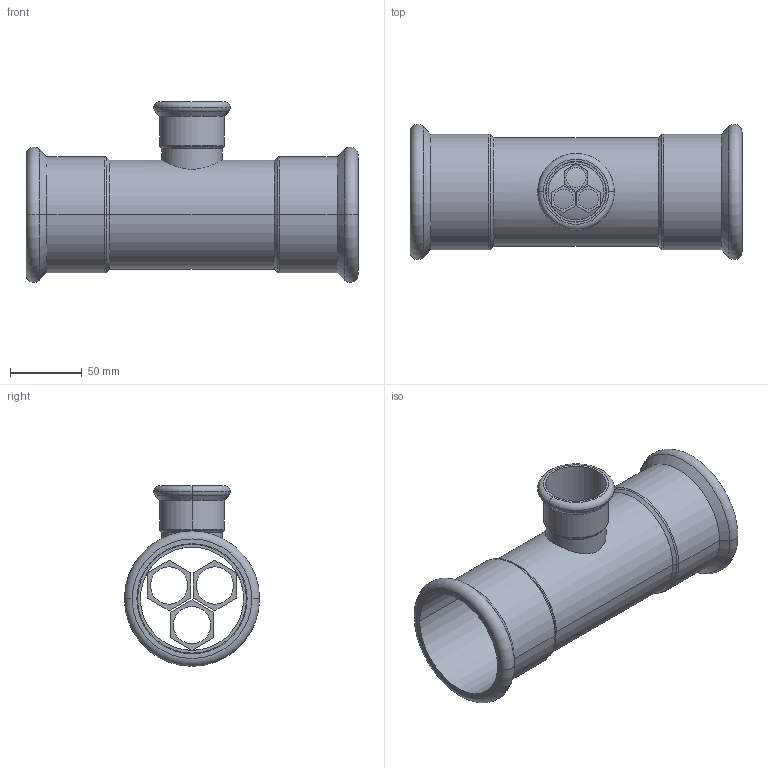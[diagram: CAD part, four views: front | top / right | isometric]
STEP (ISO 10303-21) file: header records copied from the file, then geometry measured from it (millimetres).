
FILE_DESCRIPTION(('OneSpaceDesigner STEP Export'),'2;1');
FILE_NAME('R2715 76x42x76.stp','2010-06-10T 9:26:18',(''),(''),'OneSpace Designer STEP processor for AP214 (Solid Model)','OneSpace Modeling 15.00A 14-Mar-2007 (C) CoCreate Software GmbH','');
FILE_SCHEMA(('AUTOMOTIVE_DESIGN { 1 0 10303 214 1 1 1 1 }'));
Length unit declared in the file: millimetre
Products named in the file (2): R2715_76x42x76
Assembly tree (1 placements, depth 2):
  R2715_76x42x76
    R2715_76x42x76
Bounding box: 232 x 94.48 x 126.24 mm (x, y, z)
Volume: 169747.9 mm3; surface area: 140562.2 mm2
Topology: 1 solids, 1 shells, 170 faces, 424 edges, 273 vertices
Faces by surface type: plane 90, cylinder 54, torus 14, cone 12
Entity records: 5658 total; most frequent: CARTESIAN_POINT 1925, ORIENTED_EDGE 848, DIRECTION 645, EDGE_CURVE 424, VERTEX_POINT 273, VECTOR 263, LINE 263, EDGE_LOOP 207
